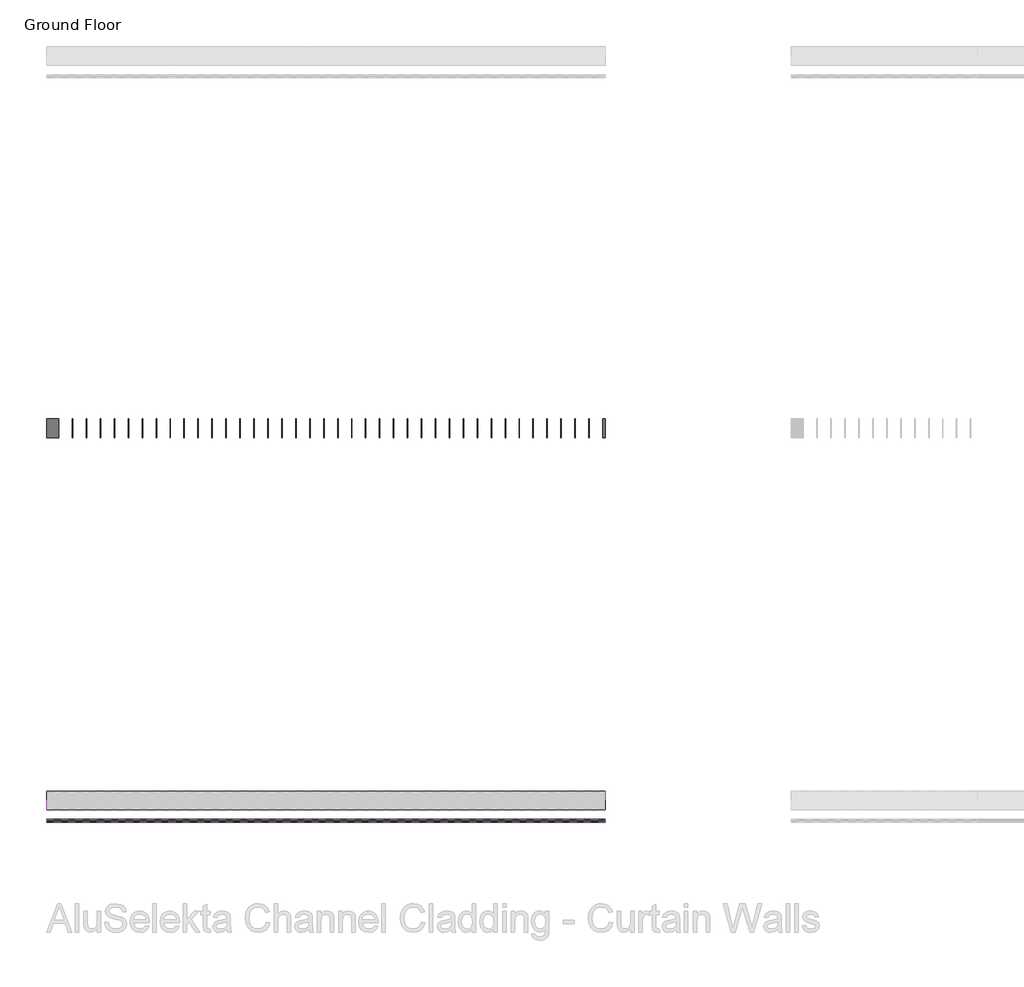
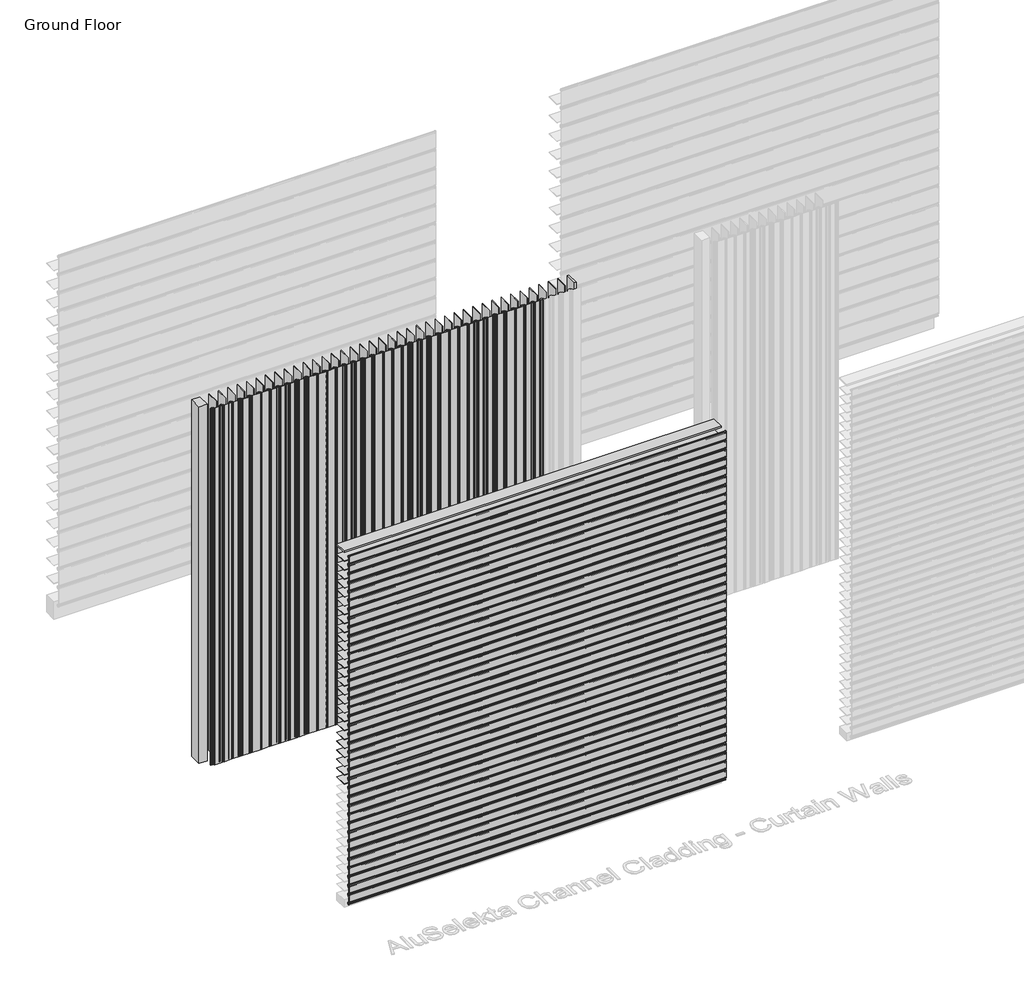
# One storey, part 11 of 350: 74 members, 67 plates.
"""IFC4 building model written with IfcOpenShell, lengths in millimetres."""

from ifc_helpers import new_model, si_unit, origin, place, context, project, spatial, transform, mapped, element, save
from components import rectangular_mullion_894c3da7, empty_system_panel_empty_02c6fd44, empty_system_panel_empty_a36746fc, empty_system_panel_empty_86793474, empty_system_panel_empty_27b459cb, empty_system_panel_empty_8dc9dcb4

model = new_model("IFC4")

# Units and contexts
model_context = context("Model", 3, world=origin())
ifc_project = project(units=[si_unit("LENGTHUNIT", "METRE", prefix="MILLI")], contexts=[model_context])

# Site, building, storey
site = spatial("IfcSite", under=ifc_project)
building = spatial("IfcBuilding", under=site)
storey = spatial("IfcBuildingStorey", under=building, Name="Ground Floor", Elevation=0.0)

# Members
placement = place(None, origin())
rectangular_mullion_shape = rectangular_mullion_894c3da7(model_context)
element("IfcMember", 1, ObjectType="Rectangular Mullion : Cladding_Aluminium_Modinex_AluSelekta_Channel_75_AfricanEbony", at=placement, inside=storey, context=model_context, shape_type="MappedRepresentation", body=[
    mapped(rectangular_mullion_shape, transform((31916.4361639, 12968.2978302, 75.0), x_axis=(0.0, 0.0, 1.0), y_axis=(0.0, -1.0, 0.0), z_axis=(1.0, 0.0, 0.0))),
])
element("IfcMember", 2, ObjectType="Rectangular Mullion : Cladding_Aluminium_Modinex_AluSelekta_Channel_75_AfricanEbony", at=placement, inside=storey, context=model_context, shape_type="MappedRepresentation", body=[
    mapped(rectangular_mullion_shape, transform((31916.4361639, 12968.2978302, 150.0), x_axis=(0.0, 0.0, 1.0), y_axis=(0.0, -1.0, 0.0), z_axis=(1.0, 0.0, 0.0))),
])
element("IfcMember", 3, ObjectType="Rectangular Mullion : Cladding_Aluminium_Modinex_AluSelekta_Channel_75_AfricanEbony", at=placement, inside=storey, context=model_context, shape_type="MappedRepresentation", body=[
    mapped(rectangular_mullion_shape, transform((31916.4361639, 12968.2978302, 225.0), x_axis=(0.0, 0.0, 1.0), y_axis=(0.0, -1.0, 0.0), z_axis=(1.0, 0.0, 0.0))),
])
element("IfcMember", 4, ObjectType="Rectangular Mullion : Cladding_Aluminium_Modinex_AluSelekta_Channel_75_AfricanEbony", at=placement, inside=storey, context=model_context, shape_type="MappedRepresentation", body=[
    mapped(rectangular_mullion_shape, transform((31916.4361639, 12968.2978302, 300.0), x_axis=(0.0, 0.0, 1.0), y_axis=(0.0, -1.0, 0.0), z_axis=(1.0, 0.0, 0.0))),
])
element("IfcMember", 5, ObjectType="Rectangular Mullion : Cladding_Aluminium_Modinex_AluSelekta_Channel_75_AfricanEbony", at=placement, inside=storey, context=model_context, shape_type="MappedRepresentation", body=[
    mapped(rectangular_mullion_shape, transform((31916.4361639, 12968.2978302, 375.0), x_axis=(0.0, 0.0, 1.0), y_axis=(0.0, -1.0, 0.0), z_axis=(1.0, 0.0, 0.0))),
])
element("IfcMember", 6, ObjectType="Rectangular Mullion : Cladding_Aluminium_Modinex_AluSelekta_Channel_75_AfricanEbony", at=placement, inside=storey, context=model_context, shape_type="MappedRepresentation", body=[
    mapped(rectangular_mullion_shape, transform((31916.4361639, 12968.2978302, 450.0), x_axis=(0.0, 0.0, 1.0), y_axis=(0.0, -1.0, 0.0), z_axis=(1.0, 0.0, 0.0))),
])
element("IfcMember", 7, ObjectType="Rectangular Mullion : Cladding_Aluminium_Modinex_AluSelekta_Channel_75_AfricanEbony", at=placement, inside=storey, context=model_context, shape_type="MappedRepresentation", body=[
    mapped(rectangular_mullion_shape, transform((31916.4361639, 12968.2978302, 525.0), x_axis=(0.0, 0.0, 1.0), y_axis=(0.0, -1.0, 0.0), z_axis=(1.0, 0.0, 0.0))),
])
element("IfcMember", 8, ObjectType="Rectangular Mullion : Cladding_Aluminium_Modinex_AluSelekta_Channel_75_AfricanEbony", at=placement, inside=storey, context=model_context, shape_type="MappedRepresentation", body=[
    mapped(rectangular_mullion_shape, transform((31916.4361639, 12968.2978302, 600.0), x_axis=(0.0, 0.0, 1.0), y_axis=(0.0, -1.0, 0.0), z_axis=(1.0, 0.0, 0.0))),
])
element("IfcMember", 9, ObjectType="Rectangular Mullion : Cladding_Aluminium_Modinex_AluSelekta_Channel_75_AfricanEbony", at=placement, inside=storey, context=model_context, shape_type="MappedRepresentation", body=[
    mapped(rectangular_mullion_shape, transform((31916.4361639, 12968.2978302, 675.0), x_axis=(0.0, 0.0, 1.0), y_axis=(0.0, -1.0, 0.0), z_axis=(1.0, 0.0, 0.0))),
])
element("IfcMember", 10, ObjectType="Rectangular Mullion : Cladding_Aluminium_Modinex_AluSelekta_Channel_75_AfricanEbony", at=placement, inside=storey, context=model_context, shape_type="MappedRepresentation", body=[
    mapped(rectangular_mullion_shape, transform((31916.4361639, 12968.2978302, 750.0), x_axis=(0.0, 0.0, 1.0), y_axis=(0.0, -1.0, 0.0), z_axis=(1.0, 0.0, 0.0))),
])
element("IfcMember", 11, ObjectType="Rectangular Mullion : Cladding_Aluminium_Modinex_AluSelekta_Channel_75_AfricanEbony", at=placement, inside=storey, context=model_context, shape_type="MappedRepresentation", body=[
    mapped(rectangular_mullion_shape, transform((31916.4361639, 12968.2978302, 825.0), x_axis=(0.0, 0.0, 1.0), y_axis=(0.0, -1.0, 0.0), z_axis=(1.0, 0.0, 0.0))),
])
element("IfcMember", 12, ObjectType="Rectangular Mullion : Cladding_Aluminium_Modinex_AluSelekta_Channel_75_AfricanEbony", at=placement, inside=storey, context=model_context, shape_type="MappedRepresentation", body=[
    mapped(rectangular_mullion_shape, transform((31916.4361639, 12968.2978302, 900.0), x_axis=(0.0, 0.0, 1.0), y_axis=(0.0, -1.0, 0.0), z_axis=(1.0, 0.0, 0.0))),
])
element("IfcMember", 13, ObjectType="Rectangular Mullion : Cladding_Aluminium_Modinex_AluSelekta_Channel_75_AfricanEbony", at=placement, inside=storey, context=model_context, shape_type="MappedRepresentation", body=[
    mapped(rectangular_mullion_shape, transform((31916.4361639, 12968.2978302, 975.0), x_axis=(0.0, 0.0, 1.0), y_axis=(0.0, -1.0, 0.0), z_axis=(1.0, 0.0, 0.0))),
])
element("IfcMember", 14, ObjectType="Rectangular Mullion : Cladding_Aluminium_Modinex_AluSelekta_Channel_75_AfricanEbony", at=placement, inside=storey, context=model_context, shape_type="MappedRepresentation", body=[
    mapped(rectangular_mullion_shape, transform((31916.4361639, 12968.2978302, 1050.0), x_axis=(0.0, 0.0, 1.0), y_axis=(0.0, -1.0, 0.0), z_axis=(1.0, 0.0, 0.0))),
])
element("IfcMember", 15, ObjectType="Rectangular Mullion : Cladding_Aluminium_Modinex_AluSelekta_Channel_75_AfricanEbony", at=placement, inside=storey, context=model_context, shape_type="MappedRepresentation", body=[
    mapped(rectangular_mullion_shape, transform((31916.4361639, 12968.2978302, 1125.0), x_axis=(0.0, 0.0, 1.0), y_axis=(0.0, -1.0, 0.0), z_axis=(1.0, 0.0, 0.0))),
])
element("IfcMember", 16, ObjectType="Rectangular Mullion : Cladding_Aluminium_Modinex_AluSelekta_Channel_75_AfricanEbony", at=placement, inside=storey, context=model_context, shape_type="MappedRepresentation", body=[
    mapped(rectangular_mullion_shape, transform((31916.4361639, 12968.2978302, 1200.0), x_axis=(0.0, 0.0, 1.0), y_axis=(0.0, -1.0, 0.0), z_axis=(1.0, 0.0, 0.0))),
])
element("IfcMember", 17, ObjectType="Rectangular Mullion : Cladding_Aluminium_Modinex_AluSelekta_Channel_75_AfricanEbony", at=placement, inside=storey, context=model_context, shape_type="MappedRepresentation", body=[
    mapped(rectangular_mullion_shape, transform((31916.4361639, 12968.2978302, 1275.0), x_axis=(0.0, 0.0, 1.0), y_axis=(0.0, -1.0, 0.0), z_axis=(1.0, 0.0, 0.0))),
])
element("IfcMember", 18, ObjectType="Rectangular Mullion : Cladding_Aluminium_Modinex_AluSelekta_Channel_75_AfricanEbony", at=placement, inside=storey, context=model_context, shape_type="MappedRepresentation", body=[
    mapped(rectangular_mullion_shape, transform((31916.4361639, 12968.2978302, 1350.0), x_axis=(0.0, 0.0, 1.0), y_axis=(0.0, -1.0, 0.0), z_axis=(1.0, 0.0, 0.0))),
])
element("IfcMember", 19, ObjectType="Rectangular Mullion : Cladding_Aluminium_Modinex_AluSelekta_Channel_75_AfricanEbony", at=placement, inside=storey, context=model_context, shape_type="MappedRepresentation", body=[
    mapped(rectangular_mullion_shape, transform((31916.4361639, 12968.2978302, 1425.0), x_axis=(0.0, 0.0, 1.0), y_axis=(0.0, -1.0, 0.0), z_axis=(1.0, 0.0, 0.0))),
])
element("IfcMember", 20, ObjectType="Rectangular Mullion : Cladding_Aluminium_Modinex_AluSelekta_Channel_75_AfricanEbony", at=placement, inside=storey, context=model_context, shape_type="MappedRepresentation", body=[
    mapped(rectangular_mullion_shape, transform((31916.4361639, 12968.2978302, 1500.0), x_axis=(0.0, 0.0, 1.0), y_axis=(0.0, -1.0, 0.0), z_axis=(1.0, 0.0, 0.0))),
])
element("IfcMember", 21, ObjectType="Rectangular Mullion : Cladding_Aluminium_Modinex_AluSelekta_Channel_75_AfricanEbony", at=placement, inside=storey, context=model_context, shape_type="MappedRepresentation", body=[
    mapped(rectangular_mullion_shape, transform((31916.4361639, 12968.2978302, 1575.0), x_axis=(0.0, 0.0, 1.0), y_axis=(0.0, -1.0, 0.0), z_axis=(1.0, 0.0, 0.0))),
])
element("IfcMember", 22, ObjectType="Rectangular Mullion : Cladding_Aluminium_Modinex_AluSelekta_Channel_75_AfricanEbony", at=placement, inside=storey, context=model_context, shape_type="MappedRepresentation", body=[
    mapped(rectangular_mullion_shape, transform((31916.4361639, 12968.2978302, 1650.0), x_axis=(0.0, 0.0, 1.0), y_axis=(0.0, -1.0, 0.0), z_axis=(1.0, 0.0, 0.0))),
])
element("IfcMember", 23, ObjectType="Rectangular Mullion : Cladding_Aluminium_Modinex_AluSelekta_Channel_75_AfricanEbony", at=placement, inside=storey, context=model_context, shape_type="MappedRepresentation", body=[
    mapped(rectangular_mullion_shape, transform((31916.4361639, 12968.2978302, 1725.0), x_axis=(0.0, 0.0, 1.0), y_axis=(0.0, -1.0, 0.0), z_axis=(1.0, 0.0, 0.0))),
])
element("IfcMember", 24, ObjectType="Rectangular Mullion : Cladding_Aluminium_Modinex_AluSelekta_Channel_75_AfricanEbony", at=placement, inside=storey, context=model_context, shape_type="MappedRepresentation", body=[
    mapped(rectangular_mullion_shape, transform((31916.4361639, 12968.2978302, 1800.0), x_axis=(0.0, 0.0, 1.0), y_axis=(0.0, -1.0, 0.0), z_axis=(1.0, 0.0, 0.0))),
])
element("IfcMember", 25, ObjectType="Rectangular Mullion : Cladding_Aluminium_Modinex_AluSelekta_Channel_75_AfricanEbony", at=placement, inside=storey, context=model_context, shape_type="MappedRepresentation", body=[
    mapped(rectangular_mullion_shape, transform((31916.4361639, 12968.2978302, 1875.0), x_axis=(0.0, 0.0, 1.0), y_axis=(0.0, -1.0, 0.0), z_axis=(1.0, 0.0, 0.0))),
])
element("IfcMember", 26, ObjectType="Rectangular Mullion : Cladding_Aluminium_Modinex_AluSelekta_Channel_75_AfricanEbony", at=placement, inside=storey, context=model_context, shape_type="MappedRepresentation", body=[
    mapped(rectangular_mullion_shape, transform((31916.4361639, 12968.2978302, 1950.0), x_axis=(0.0, 0.0, 1.0), y_axis=(0.0, -1.0, 0.0), z_axis=(1.0, 0.0, 0.0))),
])
element("IfcMember", 27, ObjectType="Rectangular Mullion : Cladding_Aluminium_Modinex_AluSelekta_Channel_75_AfricanEbony", at=placement, inside=storey, context=model_context, shape_type="MappedRepresentation", body=[
    mapped(rectangular_mullion_shape, transform((31916.4361639, 12968.2978302, 2025.0), x_axis=(0.0, 0.0, 1.0), y_axis=(0.0, -1.0, 0.0), z_axis=(1.0, 0.0, 0.0))),
])
element("IfcMember", 28, ObjectType="Rectangular Mullion : Cladding_Aluminium_Modinex_AluSelekta_Channel_75_AfricanEbony", at=placement, inside=storey, context=model_context, shape_type="MappedRepresentation", body=[
    mapped(rectangular_mullion_shape, transform((31916.4361639, 12968.2978302, 2100.0), x_axis=(0.0, 0.0, 1.0), y_axis=(0.0, -1.0, 0.0), z_axis=(1.0, 0.0, 0.0))),
])
element("IfcMember", 29, ObjectType="Rectangular Mullion : Cladding_Aluminium_Modinex_AluSelekta_Channel_75_AfricanEbony", at=placement, inside=storey, context=model_context, shape_type="MappedRepresentation", body=[
    mapped(rectangular_mullion_shape, transform((31916.4361639, 12968.2978302, 2175.0), x_axis=(0.0, 0.0, 1.0), y_axis=(0.0, -1.0, 0.0), z_axis=(1.0, 0.0, 0.0))),
])
element("IfcMember", 30, ObjectType="Rectangular Mullion : Cladding_Aluminium_Modinex_AluSelekta_Channel_75_AfricanEbony", at=placement, inside=storey, context=model_context, shape_type="MappedRepresentation", body=[
    mapped(rectangular_mullion_shape, transform((31916.4361639, 12968.2978302, 2250.0), x_axis=(0.0, 0.0, 1.0), y_axis=(0.0, -1.0, 0.0), z_axis=(1.0, 0.0, 0.0))),
])
element("IfcMember", 31, ObjectType="Rectangular Mullion : Cladding_Aluminium_Modinex_AluSelekta_Channel_75_AfricanEbony", at=placement, inside=storey, context=model_context, shape_type="MappedRepresentation", body=[
    mapped(rectangular_mullion_shape, transform((31916.4361639, 12968.2978302, 2325.0), x_axis=(0.0, 0.0, 1.0), y_axis=(0.0, -1.0, 0.0), z_axis=(1.0, 0.0, 0.0))),
])
element("IfcMember", 32, ObjectType="Rectangular Mullion : Cladding_Aluminium_Modinex_AluSelekta_Channel_75_AfricanEbony", at=placement, inside=storey, context=model_context, shape_type="MappedRepresentation", body=[
    mapped(rectangular_mullion_shape, transform((31916.4361639, 12968.2978302, 2400.0), x_axis=(0.0, 0.0, 1.0), y_axis=(0.0, -1.0, 0.0), z_axis=(1.0, 0.0, 0.0))),
])
element("IfcMember", 33, ObjectType="Rectangular Mullion : Cladding_Aluminium_Modinex_AluSelekta_Channel_75_AfricanEbony", at=placement, inside=storey, context=model_context, shape_type="MappedRepresentation", body=[
    mapped(rectangular_mullion_shape, transform((31916.4361639, 12968.2978302, 2475.0), x_axis=(0.0, 0.0, 1.0), y_axis=(0.0, -1.0, 0.0), z_axis=(1.0, 0.0, 0.0))),
])
element("IfcMember", 34, ObjectType="Rectangular Mullion : Cladding_Aluminium_Modinex_AluSelekta_Channel_75_AfricanEbony", at=placement, inside=storey, context=model_context, shape_type="MappedRepresentation", body=[
    mapped(rectangular_mullion_shape, transform((31916.4361639, 12968.2978302, 2550.0), x_axis=(0.0, 0.0, 1.0), y_axis=(0.0, -1.0, 0.0), z_axis=(1.0, 0.0, 0.0))),
])
element("IfcMember", 35, ObjectType="Rectangular Mullion : Cladding_Aluminium_Modinex_AluSelekta_Channel_75_AfricanEbony", at=placement, inside=storey, context=model_context, shape_type="MappedRepresentation", body=[
    mapped(rectangular_mullion_shape, transform((31916.4361639, 12968.2978302, 2625.0), x_axis=(0.0, 0.0, 1.0), y_axis=(0.0, -1.0, 0.0), z_axis=(1.0, 0.0, 0.0))),
])
element("IfcMember", 36, ObjectType="Rectangular Mullion : Cladding_Aluminium_Modinex_AluSelekta_Channel_75_AfricanEbony", at=placement, inside=storey, context=model_context, shape_type="MappedRepresentation", body=[
    mapped(rectangular_mullion_shape, transform((31916.4361639, 12968.2978302, 2700.0), x_axis=(0.0, 0.0, 1.0), y_axis=(0.0, -1.0, 0.0), z_axis=(1.0, 0.0, 0.0))),
])
element("IfcMember", 37, ObjectType="Rectangular Mullion : Cladding_Aluminium_Modinex_AluSelekta_Channel_75_AfricanEbony", at=placement, inside=storey, context=model_context, shape_type="MappedRepresentation", body=[
    mapped(rectangular_mullion_shape, transform((31916.4361639, 12968.2978302, 2775.0), x_axis=(0.0, 0.0, 1.0), y_axis=(0.0, -1.0, 0.0), z_axis=(1.0, 0.0, 0.0))),
])
element("IfcMember", 38, ObjectType="Rectangular Mullion : Cladding_Aluminium_Modinex_AluSelekta_Channel_75_AfricanEbony", at=placement, inside=storey, context=model_context, shape_type="MappedRepresentation", body=[
    mapped(rectangular_mullion_shape, transform((31916.4361639, 12968.2978302, 2850.0), x_axis=(0.0, 0.0, 1.0), y_axis=(0.0, -1.0, 0.0), z_axis=(1.0, 0.0, 0.0))),
])
element("IfcMember", 39, ObjectType="Rectangular Mullion : Cladding_Aluminium_Modinex_AluSelekta_Channel_75_AfricanEbony", at=placement, inside=storey, context=model_context, shape_type="MappedRepresentation", body=[
    mapped(rectangular_mullion_shape, transform((31916.4361639, 12968.2978302, 2925.0), x_axis=(0.0, 0.0, 1.0), y_axis=(0.0, -1.0, 0.0), z_axis=(1.0, 0.0, 0.0))),
])
element("IfcMember", 40, ObjectType="Rectangular Mullion : Cladding_Aluminium_Modinex_AluSelekta_Channel_75_AfricanEbony", at=placement, inside=storey, context=model_context, shape_type="MappedRepresentation", body=[
    mapped(rectangular_mullion_shape, transform((30566.4361642, 14968.2978302, 0.0), x_axis=(1.0, 0.0, 0.0), y_axis=(0.0, -1.0, 0.0), z_axis=(0.0, 0.0, -1.0))),
])
element("IfcMember", 41, ObjectType="Rectangular Mullion : Cladding_Aluminium_Modinex_AluSelekta_Channel_75_AfricanEbony", at=placement, inside=storey, context=model_context, shape_type="MappedRepresentation", body=[
    mapped(rectangular_mullion_shape, transform((30641.4361642, 14968.2978302, 0.0), x_axis=(1.0, 0.0, 0.0), y_axis=(0.0, -1.0, 0.0), z_axis=(0.0, 0.0, -1.0))),
])
element("IfcMember", 42, ObjectType="Rectangular Mullion : Cladding_Aluminium_Modinex_AluSelekta_Channel_75_AfricanEbony", at=placement, inside=storey, context=model_context, shape_type="MappedRepresentation", body=[
    mapped(rectangular_mullion_shape, transform((30716.4361642, 14968.2978302, 0.0), x_axis=(1.0, 0.0, 0.0), y_axis=(0.0, -1.0, 0.0), z_axis=(0.0, 0.0, -1.0))),
])
element("IfcMember", 43, ObjectType="Rectangular Mullion : Cladding_Aluminium_Modinex_AluSelekta_Channel_75_AfricanEbony", at=placement, inside=storey, context=model_context, shape_type="MappedRepresentation", body=[
    mapped(rectangular_mullion_shape, transform((30791.4361642, 14968.2978302, 0.0), x_axis=(1.0, 0.0, 0.0), y_axis=(0.0, -1.0, 0.0), z_axis=(0.0, 0.0, -1.0))),
])
element("IfcMember", 44, ObjectType="Rectangular Mullion : Cladding_Aluminium_Modinex_AluSelekta_Channel_75_AfricanEbony", at=placement, inside=storey, context=model_context, shape_type="MappedRepresentation", body=[
    mapped(rectangular_mullion_shape, transform((30866.4361642, 14968.2978302, 0.0), x_axis=(1.0, 0.0, 0.0), y_axis=(0.0, -1.0, 0.0), z_axis=(0.0, 0.0, -1.0))),
])
element("IfcMember", 45, ObjectType="Rectangular Mullion : Cladding_Aluminium_Modinex_AluSelekta_Channel_75_AfricanEbony", at=placement, inside=storey, context=model_context, shape_type="MappedRepresentation", body=[
    mapped(rectangular_mullion_shape, transform((30941.4361642, 14968.2978302, 0.0), x_axis=(1.0, 0.0, 0.0), y_axis=(0.0, -1.0, 0.0), z_axis=(0.0, 0.0, -1.0))),
])
element("IfcMember", 46, ObjectType="Rectangular Mullion : Cladding_Aluminium_Modinex_AluSelekta_Channel_75_AfricanEbony", at=placement, inside=storey, context=model_context, shape_type="MappedRepresentation", body=[
    mapped(rectangular_mullion_shape, transform((31016.4361642, 14968.2978302, 0.0), x_axis=(1.0, 0.0, 0.0), y_axis=(0.0, -1.0, 0.0), z_axis=(0.0, 0.0, -1.0))),
])
element("IfcMember", 47, ObjectType="Rectangular Mullion : Cladding_Aluminium_Modinex_AluSelekta_Channel_75_AfricanEbony", at=placement, inside=storey, context=model_context, shape_type="MappedRepresentation", body=[
    mapped(rectangular_mullion_shape, transform((31091.4361642, 14968.2978302, 0.0), x_axis=(1.0, 0.0, 0.0), y_axis=(0.0, -1.0, 0.0), z_axis=(0.0, 0.0, -1.0))),
])
element("IfcMember", 48, ObjectType="Rectangular Mullion : Cladding_Aluminium_Modinex_AluSelekta_Channel_75_AfricanEbony", at=placement, inside=storey, context=model_context, shape_type="MappedRepresentation", body=[
    mapped(rectangular_mullion_shape, transform((31166.4361642, 14968.2978302, 0.0), x_axis=(1.0, 0.0, 0.0), y_axis=(0.0, -1.0, 0.0), z_axis=(0.0, 0.0, -1.0))),
])
element("IfcMember", 49, ObjectType="Rectangular Mullion : Cladding_Aluminium_Modinex_AluSelekta_Channel_75_AfricanEbony", at=placement, inside=storey, context=model_context, shape_type="MappedRepresentation", body=[
    mapped(rectangular_mullion_shape, transform((31241.4361642, 14968.2978302, 0.0), x_axis=(1.0, 0.0, 0.0), y_axis=(0.0, -1.0, 0.0), z_axis=(0.0, 0.0, -1.0))),
])
element("IfcMember", 50, ObjectType="Rectangular Mullion : Cladding_Aluminium_Modinex_AluSelekta_Channel_75_AfricanEbony", at=placement, inside=storey, context=model_context, shape_type="MappedRepresentation", body=[
    mapped(rectangular_mullion_shape, transform((31316.4361642, 14968.2978302, 0.0), x_axis=(1.0, 0.0, 0.0), y_axis=(0.0, -1.0, 0.0), z_axis=(0.0, 0.0, -1.0))),
])
element("IfcMember", 51, ObjectType="Rectangular Mullion : Cladding_Aluminium_Modinex_AluSelekta_Channel_75_AfricanEbony", at=placement, inside=storey, context=model_context, shape_type="MappedRepresentation", body=[
    mapped(rectangular_mullion_shape, transform((31391.4361642, 14968.2978302, 0.0), x_axis=(1.0, 0.0, 0.0), y_axis=(0.0, -1.0, 0.0), z_axis=(0.0, 0.0, -1.0))),
])
element("IfcMember", 52, ObjectType="Rectangular Mullion : Cladding_Aluminium_Modinex_AluSelekta_Channel_75_AfricanEbony", at=placement, inside=storey, context=model_context, shape_type="MappedRepresentation", body=[
    mapped(rectangular_mullion_shape, transform((31466.4361642, 14968.2978302, 0.0), x_axis=(1.0, 0.0, 0.0), y_axis=(0.0, -1.0, 0.0), z_axis=(0.0, 0.0, -1.0))),
])
element("IfcMember", 53, ObjectType="Rectangular Mullion : Cladding_Aluminium_Modinex_AluSelekta_Channel_75_AfricanEbony", at=placement, inside=storey, context=model_context, shape_type="MappedRepresentation", body=[
    mapped(rectangular_mullion_shape, transform((31541.4361642, 14968.2978302, 0.0), x_axis=(1.0, 0.0, 0.0), y_axis=(0.0, -1.0, 0.0), z_axis=(0.0, 0.0, -1.0))),
])
element("IfcMember", 54, ObjectType="Rectangular Mullion : Cladding_Aluminium_Modinex_AluSelekta_Channel_75_AfricanEbony", at=placement, inside=storey, context=model_context, shape_type="MappedRepresentation", body=[
    mapped(rectangular_mullion_shape, transform((30491.4361642, 14968.2978302, 0.0), x_axis=(1.0, 0.0, 0.0), y_axis=(0.0, -1.0, 0.0), z_axis=(0.0, 0.0, -1.0))),
])
element("IfcMember", 55, ObjectType="Rectangular Mullion : Cladding_Aluminium_Modinex_AluSelekta_Channel_75_AfricanEbony", at=placement, inside=storey, context=model_context, shape_type="MappedRepresentation", body=[
    mapped(rectangular_mullion_shape, transform((30416.4361642, 14968.2978302, 0.0), x_axis=(1.0, 0.0, 0.0), y_axis=(0.0, -1.0, 0.0), z_axis=(0.0, 0.0, -1.0))),
])
element("IfcMember", 56, ObjectType="Rectangular Mullion : Cladding_Aluminium_Modinex_AluSelekta_Channel_75_AfricanEbony", at=placement, inside=storey, context=model_context, shape_type="MappedRepresentation", body=[
    mapped(rectangular_mullion_shape, transform((30341.4361642, 14968.2978302, 0.0), x_axis=(1.0, 0.0, 0.0), y_axis=(0.0, -1.0, 0.0), z_axis=(0.0, 0.0, -1.0))),
])
element("IfcMember", 57, ObjectType="Rectangular Mullion : Cladding_Aluminium_Modinex_AluSelekta_Channel_75_AfricanEbony", at=placement, inside=storey, context=model_context, shape_type="MappedRepresentation", body=[
    mapped(rectangular_mullion_shape, transform((30266.4361642, 14968.2978302, 0.0), x_axis=(1.0, 0.0, 0.0), y_axis=(0.0, -1.0, 0.0), z_axis=(0.0, 0.0, -1.0))),
])
element("IfcMember", 58, ObjectType="Rectangular Mullion : Cladding_Aluminium_Modinex_AluSelekta_Channel_75_AfricanEbony", at=placement, inside=storey, context=model_context, shape_type="MappedRepresentation", body=[
    mapped(rectangular_mullion_shape, transform((30191.4361642, 14968.2978302, 0.0), x_axis=(1.0, 0.0, 0.0), y_axis=(0.0, -1.0, 0.0), z_axis=(0.0, 0.0, -1.0))),
])
element("IfcMember", 59, ObjectType="Rectangular Mullion : Cladding_Aluminium_Modinex_AluSelekta_Channel_75_AfricanEbony", at=placement, inside=storey, context=model_context, shape_type="MappedRepresentation", body=[
    mapped(rectangular_mullion_shape, transform((30116.4361642, 14968.2978302, 0.0), x_axis=(1.0, 0.0, 0.0), y_axis=(0.0, -1.0, 0.0), z_axis=(0.0, 0.0, -1.0))),
])
element("IfcMember", 60, ObjectType="Rectangular Mullion : Cladding_Aluminium_Modinex_AluSelekta_Channel_75_AfricanEbony", at=placement, inside=storey, context=model_context, shape_type="MappedRepresentation", body=[
    mapped(rectangular_mullion_shape, transform((30041.4361642, 14968.2978302, 0.0), x_axis=(1.0, 0.0, 0.0), y_axis=(0.0, -1.0, 0.0), z_axis=(0.0, 0.0, -1.0))),
])
element("IfcMember", 61, ObjectType="Rectangular Mullion : Cladding_Aluminium_Modinex_AluSelekta_Channel_75_AfricanEbony", at=placement, inside=storey, context=model_context, shape_type="MappedRepresentation", body=[
    mapped(rectangular_mullion_shape, transform((29966.4361642, 14968.2978302, 0.0), x_axis=(1.0, 0.0, 0.0), y_axis=(0.0, -1.0, 0.0), z_axis=(0.0, 0.0, -1.0))),
])
element("IfcMember", 62, ObjectType="Rectangular Mullion : Cladding_Aluminium_Modinex_AluSelekta_Channel_75_AfricanEbony", at=placement, inside=storey, context=model_context, shape_type="MappedRepresentation", body=[
    mapped(rectangular_mullion_shape, transform((29891.4361642, 14968.2978302, 0.0), x_axis=(1.0, 0.0, 0.0), y_axis=(0.0, -1.0, 0.0), z_axis=(0.0, 0.0, -1.0))),
])
element("IfcMember", 63, ObjectType="Rectangular Mullion : Cladding_Aluminium_Modinex_AluSelekta_Channel_75_AfricanEbony", at=placement, inside=storey, context=model_context, shape_type="MappedRepresentation", body=[
    mapped(rectangular_mullion_shape, transform((29816.4361642, 14968.2978302, 0.0), x_axis=(1.0, 0.0, 0.0), y_axis=(0.0, -1.0, 0.0), z_axis=(0.0, 0.0, -1.0))),
])
element("IfcMember", 64, ObjectType="Rectangular Mullion : Cladding_Aluminium_Modinex_AluSelekta_Channel_75_AfricanEbony", at=placement, inside=storey, context=model_context, shape_type="MappedRepresentation", body=[
    mapped(rectangular_mullion_shape, transform((29741.4361642, 14968.2978302, 0.0), x_axis=(1.0, 0.0, 0.0), y_axis=(0.0, -1.0, 0.0), z_axis=(0.0, 0.0, -1.0))),
])
element("IfcMember", 65, ObjectType="Rectangular Mullion : Cladding_Aluminium_Modinex_AluSelekta_Channel_75_AfricanEbony", at=placement, inside=storey, context=model_context, shape_type="MappedRepresentation", body=[
    mapped(rectangular_mullion_shape, transform((29666.4361642, 14968.2978302, 0.0), x_axis=(1.0, 0.0, 0.0), y_axis=(0.0, -1.0, 0.0), z_axis=(0.0, 0.0, -1.0))),
])
element("IfcMember", 66, ObjectType="Rectangular Mullion : Cladding_Aluminium_Modinex_AluSelekta_Channel_75_AfricanEbony", at=placement, inside=storey, context=model_context, shape_type="MappedRepresentation", body=[
    mapped(rectangular_mullion_shape, transform((29591.4361642, 14968.2978302, 0.0), x_axis=(1.0, 0.0, 0.0), y_axis=(0.0, -1.0, 0.0), z_axis=(0.0, 0.0, -1.0))),
])
element("IfcMember", 67, ObjectType="Rectangular Mullion : Cladding_Aluminium_Modinex_AluSelekta_Channel_75_AfricanEbony", at=placement, inside=storey, context=model_context, shape_type="MappedRepresentation", body=[
    mapped(rectangular_mullion_shape, transform((29516.4361642, 14968.2978302, 0.0), x_axis=(1.0, 0.0, 0.0), y_axis=(0.0, -1.0, 0.0), z_axis=(0.0, 0.0, -1.0))),
])
element("IfcMember", 68, ObjectType="Rectangular Mullion : Cladding_Aluminium_Modinex_AluSelekta_Channel_75_AfricanEbony", at=placement, inside=storey, context=model_context, shape_type="MappedRepresentation", body=[
    mapped(rectangular_mullion_shape, transform((29441.4361642, 14968.2978302, 0.0), x_axis=(1.0, 0.0, 0.0), y_axis=(0.0, -1.0, 0.0), z_axis=(0.0, 0.0, -1.0))),
])
element("IfcMember", 69, ObjectType="Rectangular Mullion : Cladding_Aluminium_Modinex_AluSelekta_Channel_75_AfricanEbony", at=placement, inside=storey, context=model_context, shape_type="MappedRepresentation", body=[
    mapped(rectangular_mullion_shape, transform((29366.4361642, 14968.2978302, 0.0), x_axis=(1.0, 0.0, 0.0), y_axis=(0.0, -1.0, 0.0), z_axis=(0.0, 0.0, -1.0))),
])
element("IfcMember", 70, ObjectType="Rectangular Mullion : Cladding_Aluminium_Modinex_AluSelekta_Channel_75_AfricanEbony", at=placement, inside=storey, context=model_context, shape_type="MappedRepresentation", body=[
    mapped(rectangular_mullion_shape, transform((29291.4361642, 14968.2978302, 0.0), x_axis=(1.0, 0.0, 0.0), y_axis=(0.0, -1.0, 0.0), z_axis=(0.0, 0.0, -1.0))),
])
element("IfcMember", 71, ObjectType="Rectangular Mullion : Cladding_Aluminium_Modinex_AluSelekta_Channel_75_AfricanEbony", at=placement, inside=storey, context=model_context, shape_type="MappedRepresentation", body=[
    mapped(rectangular_mullion_shape, transform((29216.4361642, 14968.2978302, 0.0), x_axis=(1.0, 0.0, 0.0), y_axis=(0.0, -1.0, 0.0), z_axis=(0.0, 0.0, -1.0))),
])
element("IfcMember", 72, ObjectType="Rectangular Mullion : Cladding_Aluminium_Modinex_AluSelekta_Channel_75_AfricanEbony", at=placement, inside=storey, context=model_context, shape_type="MappedRepresentation", body=[
    mapped(rectangular_mullion_shape, transform((29141.4361642, 14968.2978302, 0.0), x_axis=(1.0, 0.0, 0.0), y_axis=(0.0, -1.0, 0.0), z_axis=(0.0, 0.0, -1.0))),
])
element("IfcMember", 73, ObjectType="Rectangular Mullion : Cladding_Aluminium_Modinex_AluSelekta_Channel_75_AfricanEbony", at=placement, inside=storey, context=model_context, shape_type="MappedRepresentation", body=[
    mapped(rectangular_mullion_shape, transform((29066.4361642, 14968.2978302, 0.0), x_axis=(1.0, 0.0, 0.0), y_axis=(0.0, -1.0, 0.0), z_axis=(0.0, 0.0, -1.0))),
])
element("IfcMember", 74, ObjectType="Rectangular Mullion : Cladding_Aluminium_Modinex_AluSelekta_Channel_75_AfricanEbony", at=placement, inside=storey, context=model_context, shape_type="MappedRepresentation", body=[
    mapped(rectangular_mullion_shape, transform((28991.4361642, 14968.2978302, 0.0), x_axis=(1.0, 0.0, 0.0), y_axis=(0.0, -1.0, 0.0), z_axis=(0.0, 0.0, -1.0))),
])

# Plates
empty_system_panel_empty_shape = empty_system_panel_empty_02c6fd44(model_context)
element("IfcPlate", 75, ObjectType="Empty System Panel : Empty", at=placement, inside=storey, context=model_context, shape_type="MappedRepresentation", body=[
    mapped(empty_system_panel_empty_shape, transform((30416.4361639, 12968.2978302, 1037.2580963), x_axis=(1.0, 0.0, 0.0), y_axis=(0.0, 1.0, 0.0), z_axis=(0.0, 0.0, 1.0))),
])
element("IfcPlate", 76, ObjectType="Empty System Panel : Empty", at=placement, inside=storey, context=model_context, shape_type="MappedRepresentation", body=[
    mapped(empty_system_panel_empty_shape, transform((30416.4361639, 12968.2978302, 1112.2580963), x_axis=(1.0, 0.0, 0.0), y_axis=(0.0, 1.0, 0.0), z_axis=(0.0, 0.0, 1.0))),
])
element("IfcPlate", 77, ObjectType="Empty System Panel : Empty", at=placement, inside=storey, context=model_context, shape_type="MappedRepresentation", body=[
    mapped(empty_system_panel_empty_shape, transform((30416.4361639, 12968.2978302, 1187.2580963), x_axis=(1.0, 0.0, 0.0), y_axis=(0.0, 1.0, 0.0), z_axis=(0.0, 0.0, 1.0))),
])
element("IfcPlate", 78, ObjectType="Empty System Panel : Empty", at=placement, inside=storey, context=model_context, shape_type="MappedRepresentation", body=[
    mapped(empty_system_panel_empty_shape, transform((30416.4361639, 12968.2978302, 1262.2580963), x_axis=(1.0, 0.0, 0.0), y_axis=(0.0, 1.0, 0.0), z_axis=(0.0, 0.0, 1.0))),
])
element("IfcPlate", 79, ObjectType="Empty System Panel : Empty", at=placement, inside=storey, context=model_context, shape_type="MappedRepresentation", body=[
    mapped(empty_system_panel_empty_shape, transform((30416.4361639, 12968.2978302, 1337.2580963), x_axis=(1.0, 0.0, 0.0), y_axis=(0.0, 1.0, 0.0), z_axis=(0.0, 0.0, 1.0))),
])
element("IfcPlate", 80, ObjectType="Empty System Panel : Empty", at=placement, inside=storey, context=model_context, shape_type="MappedRepresentation", body=[
    mapped(empty_system_panel_empty_shape, transform((30416.4361639, 12968.2978302, 1412.2580963), x_axis=(1.0, 0.0, 0.0), y_axis=(0.0, 1.0, 0.0), z_axis=(0.0, 0.0, 1.0))),
])
element("IfcPlate", 81, ObjectType="Empty System Panel : Empty", at=placement, inside=storey, context=model_context, shape_type="MappedRepresentation", body=[
    mapped(empty_system_panel_empty_shape, transform((30416.4361639, 12968.2978302, 1487.2580963), x_axis=(1.0, 0.0, 0.0), y_axis=(0.0, 1.0, 0.0), z_axis=(0.0, 0.0, 1.0))),
])
element("IfcPlate", 82, ObjectType="Empty System Panel : Empty", at=placement, inside=storey, context=model_context, shape_type="MappedRepresentation", body=[
    mapped(empty_system_panel_empty_shape, transform((30416.4361639, 12968.2978302, 1562.2580963), x_axis=(1.0, 0.0, 0.0), y_axis=(0.0, 1.0, 0.0), z_axis=(0.0, 0.0, 1.0))),
])
element("IfcPlate", 83, ObjectType="Empty System Panel : Empty", at=placement, inside=storey, context=model_context, shape_type="MappedRepresentation", body=[
    mapped(empty_system_panel_empty_shape, transform((30416.4361639, 12968.2978302, 1637.2580963), x_axis=(1.0, 0.0, 0.0), y_axis=(0.0, 1.0, 0.0), z_axis=(0.0, 0.0, 1.0))),
])
element("IfcPlate", 84, ObjectType="Empty System Panel : Empty", at=placement, inside=storey, context=model_context, shape_type="MappedRepresentation", body=[
    mapped(empty_system_panel_empty_shape, transform((30416.4361639, 12968.2978302, 1712.2580963), x_axis=(1.0, 0.0, 0.0), y_axis=(0.0, 1.0, 0.0), z_axis=(0.0, 0.0, 1.0))),
])
element("IfcPlate", 85, ObjectType="Empty System Panel : Empty", at=placement, inside=storey, context=model_context, shape_type="MappedRepresentation", body=[
    mapped(empty_system_panel_empty_shape, transform((30416.4361639, 12968.2978302, 1787.2580963), x_axis=(1.0, 0.0, 0.0), y_axis=(0.0, 1.0, 0.0), z_axis=(0.0, 0.0, 1.0))),
])
element("IfcPlate", 86, ObjectType="Empty System Panel : Empty", at=placement, inside=storey, context=model_context, shape_type="MappedRepresentation", body=[
    mapped(empty_system_panel_empty_shape, transform((30416.4361639, 12968.2978302, 1862.2580963), x_axis=(1.0, 0.0, 0.0), y_axis=(0.0, 1.0, 0.0), z_axis=(0.0, 0.0, 1.0))),
])
element("IfcPlate", 87, ObjectType="Empty System Panel : Empty", at=placement, inside=storey, context=model_context, shape_type="MappedRepresentation", body=[
    mapped(empty_system_panel_empty_shape, transform((30416.4361639, 12968.2978302, 1937.2580963), x_axis=(1.0, 0.0, 0.0), y_axis=(0.0, 1.0, 0.0), z_axis=(0.0, 0.0, 1.0))),
])
element("IfcPlate", 88, ObjectType="Empty System Panel : Empty", at=placement, inside=storey, context=model_context, shape_type="MappedRepresentation", body=[
    mapped(empty_system_panel_empty_shape, transform((30416.4361639, 12968.2978302, 2012.2580963), x_axis=(1.0, 0.0, 0.0), y_axis=(0.0, 1.0, 0.0), z_axis=(0.0, 0.0, 1.0))),
])
element("IfcPlate", 89, ObjectType="Empty System Panel : Empty", at=placement, inside=storey, context=model_context, shape_type="MappedRepresentation", body=[
    mapped(empty_system_panel_empty_shape, transform((30416.4361639, 12968.2978302, 2087.2580963), x_axis=(1.0, 0.0, 0.0), y_axis=(0.0, 1.0, 0.0), z_axis=(0.0, 0.0, 1.0))),
])
element("IfcPlate", 90, ObjectType="Empty System Panel : Empty", at=placement, inside=storey, context=model_context, shape_type="MappedRepresentation", body=[
    mapped(empty_system_panel_empty_shape, transform((30416.4361639, 12968.2978302, 2162.2580963), x_axis=(1.0, 0.0, 0.0), y_axis=(0.0, 1.0, 0.0), z_axis=(0.0, 0.0, 1.0))),
])
element("IfcPlate", 91, ObjectType="Empty System Panel : Empty", at=placement, inside=storey, context=model_context, shape_type="MappedRepresentation", body=[
    mapped(empty_system_panel_empty_shape, transform((30416.4361639, 12968.2978302, 2237.2580963), x_axis=(1.0, 0.0, 0.0), y_axis=(0.0, 1.0, 0.0), z_axis=(0.0, 0.0, 1.0))),
])
element("IfcPlate", 92, ObjectType="Empty System Panel : Empty", at=placement, inside=storey, context=model_context, shape_type="MappedRepresentation", body=[
    mapped(empty_system_panel_empty_shape, transform((30416.4361639, 12968.2978302, 2312.2580963), x_axis=(1.0, 0.0, 0.0), y_axis=(0.0, 1.0, 0.0), z_axis=(0.0, 0.0, 1.0))),
])
element("IfcPlate", 93, ObjectType="Empty System Panel : Empty", at=placement, inside=storey, context=model_context, shape_type="MappedRepresentation", body=[
    mapped(empty_system_panel_empty_shape, transform((30416.4361639, 12968.2978302, 2387.2580963), x_axis=(1.0, 0.0, 0.0), y_axis=(0.0, 1.0, 0.0), z_axis=(0.0, 0.0, 1.0))),
])
element("IfcPlate", 94, ObjectType="Empty System Panel : Empty", at=placement, inside=storey, context=model_context, shape_type="MappedRepresentation", body=[
    mapped(empty_system_panel_empty_shape, transform((30416.4361639, 12968.2978302, 2462.2580963), x_axis=(1.0, 0.0, 0.0), y_axis=(0.0, 1.0, 0.0), z_axis=(0.0, 0.0, 1.0))),
])
element("IfcPlate", 95, ObjectType="Empty System Panel : Empty", at=placement, inside=storey, context=model_context, shape_type="MappedRepresentation", body=[
    mapped(empty_system_panel_empty_shape, transform((30416.4361639, 12968.2978302, 2537.2580963), x_axis=(1.0, 0.0, 0.0), y_axis=(0.0, 1.0, 0.0), z_axis=(0.0, 0.0, 1.0))),
])
element("IfcPlate", 96, ObjectType="Empty System Panel : Empty", at=placement, inside=storey, context=model_context, shape_type="MappedRepresentation", body=[
    mapped(empty_system_panel_empty_shape, transform((30416.4361639, 12968.2978302, 2612.2580963), x_axis=(1.0, 0.0, 0.0), y_axis=(0.0, 1.0, 0.0), z_axis=(0.0, 0.0, 1.0))),
])
element("IfcPlate", 97, ObjectType="Empty System Panel : Empty", at=placement, inside=storey, context=model_context, shape_type="MappedRepresentation", body=[
    mapped(empty_system_panel_empty_shape, transform((30416.4361639, 12968.2978302, 2687.2580963), x_axis=(1.0, 0.0, 0.0), y_axis=(0.0, 1.0, 0.0), z_axis=(0.0, 0.0, 1.0))),
])
element("IfcPlate", 98, ObjectType="Empty System Panel : Empty", at=placement, inside=storey, context=model_context, shape_type="MappedRepresentation", body=[
    mapped(empty_system_panel_empty_shape, transform((30416.4361639, 12968.2978302, 2762.2580963), x_axis=(1.0, 0.0, 0.0), y_axis=(0.0, 1.0, 0.0), z_axis=(0.0, 0.0, 1.0))),
])
element("IfcPlate", 99, ObjectType="Empty System Panel : Empty", at=placement, inside=storey, context=model_context, shape_type="MappedRepresentation", body=[
    mapped(empty_system_panel_empty_shape, transform((30416.4361639, 12968.2978302, 2837.2580963), x_axis=(1.0, 0.0, 0.0), y_axis=(0.0, 1.0, 0.0), z_axis=(0.0, 0.0, 1.0))),
])
element("IfcPlate", 100, ObjectType="Empty System Panel : Empty", at=placement, inside=storey, context=model_context, shape_type="MappedRepresentation", body=[
    mapped(empty_system_panel_empty_shape, transform((30416.4361639, 12968.2978302, 2912.2580963), x_axis=(1.0, 0.0, 0.0), y_axis=(0.0, 1.0, 0.0), z_axis=(0.0, 0.0, 1.0))),
])
empty_system_panel_empty_2_shape = empty_system_panel_empty_a36746fc(model_context)
element("IfcPlate", 101, ObjectType="Empty System Panel : Empty", at=placement, inside=storey, context=model_context, shape_type="MappedRepresentation", body=[
    mapped(empty_system_panel_empty_2_shape, transform((30416.4361639, 12968.2978302, 2987.2580963), x_axis=(1.0, 0.0, 0.0), y_axis=(0.0, 1.0, 0.0), z_axis=(0.0, 0.0, 1.0))),
])
empty_system_panel_empty_3_shape = empty_system_panel_empty_86793474(model_context)
element("IfcPlate", 102, ObjectType="Empty System Panel : Empty", at=placement, inside=storey, context=model_context, shape_type="MappedRepresentation", body=[
    mapped(empty_system_panel_empty_3_shape, transform((28948.8238843, 14968.2978302, 0.0), x_axis=(1.0, 0.0, 0.0), y_axis=(0.0, 1.0, 0.0), z_axis=(0.0, 0.0, 1.0))),
])
empty_system_panel_empty_4_shape = empty_system_panel_empty_27b459cb(model_context)
element("IfcPlate", 103, ObjectType="Empty System Panel : Empty", at=placement, inside=storey, context=model_context, shape_type="MappedRepresentation", body=[
    mapped(empty_system_panel_empty_4_shape, transform((30629.9529326, 14968.2978302, 0.0), x_axis=(1.0, 0.0, 0.0), y_axis=(0.0, 1.0, 0.0), z_axis=(0.0, 0.0, 1.0))),
])
element("IfcPlate", 104, ObjectType="Empty System Panel : Empty", at=placement, inside=storey, context=model_context, shape_type="MappedRepresentation", body=[
    mapped(empty_system_panel_empty_4_shape, transform((30704.9529326, 14968.2978302, 0.0), x_axis=(1.0, 0.0, 0.0), y_axis=(0.0, 1.0, 0.0), z_axis=(0.0, 0.0, 1.0))),
])
element("IfcPlate", 105, ObjectType="Empty System Panel : Empty", at=placement, inside=storey, context=model_context, shape_type="MappedRepresentation", body=[
    mapped(empty_system_panel_empty_4_shape, transform((30779.9529326, 14968.2978302, 0.0), x_axis=(1.0, 0.0, 0.0), y_axis=(0.0, 1.0, 0.0), z_axis=(0.0, 0.0, 1.0))),
])
element("IfcPlate", 106, ObjectType="Empty System Panel : Empty", at=placement, inside=storey, context=model_context, shape_type="MappedRepresentation", body=[
    mapped(empty_system_panel_empty_4_shape, transform((30854.9529326, 14968.2978302, 0.0), x_axis=(1.0, 0.0, 0.0), y_axis=(0.0, 1.0, 0.0), z_axis=(0.0, 0.0, 1.0))),
])
element("IfcPlate", 107, ObjectType="Empty System Panel : Empty", at=placement, inside=storey, context=model_context, shape_type="MappedRepresentation", body=[
    mapped(empty_system_panel_empty_4_shape, transform((30929.9529326, 14968.2978302, 0.0), x_axis=(1.0, 0.0, 0.0), y_axis=(0.0, 1.0, 0.0), z_axis=(0.0, 0.0, 1.0))),
])
element("IfcPlate", 108, ObjectType="Empty System Panel : Empty", at=placement, inside=storey, context=model_context, shape_type="MappedRepresentation", body=[
    mapped(empty_system_panel_empty_4_shape, transform((31004.9529326, 14968.2978302, 0.0), x_axis=(1.0, 0.0, 0.0), y_axis=(0.0, 1.0, 0.0), z_axis=(0.0, 0.0, 1.0))),
])
element("IfcPlate", 109, ObjectType="Empty System Panel : Empty", at=placement, inside=storey, context=model_context, shape_type="MappedRepresentation", body=[
    mapped(empty_system_panel_empty_4_shape, transform((31079.9529326, 14968.2978302, 0.0), x_axis=(1.0, 0.0, 0.0), y_axis=(0.0, 1.0, 0.0), z_axis=(0.0, 0.0, 1.0))),
])
element("IfcPlate", 110, ObjectType="Empty System Panel : Empty", at=placement, inside=storey, context=model_context, shape_type="MappedRepresentation", body=[
    mapped(empty_system_panel_empty_4_shape, transform((31154.9529326, 14968.2978302, 0.0), x_axis=(1.0, 0.0, 0.0), y_axis=(0.0, 1.0, 0.0), z_axis=(0.0, 0.0, 1.0))),
])
element("IfcPlate", 111, ObjectType="Empty System Panel : Empty", at=placement, inside=storey, context=model_context, shape_type="MappedRepresentation", body=[
    mapped(empty_system_panel_empty_4_shape, transform((31229.9529326, 14968.2978302, 0.0), x_axis=(1.0, 0.0, 0.0), y_axis=(0.0, 1.0, 0.0), z_axis=(0.0, 0.0, 1.0))),
])
element("IfcPlate", 112, ObjectType="Empty System Panel : Empty", at=placement, inside=storey, context=model_context, shape_type="MappedRepresentation", body=[
    mapped(empty_system_panel_empty_4_shape, transform((31304.9529326, 14968.2978302, 0.0), x_axis=(1.0, 0.0, 0.0), y_axis=(0.0, 1.0, 0.0), z_axis=(0.0, 0.0, 1.0))),
])
element("IfcPlate", 113, ObjectType="Empty System Panel : Empty", at=placement, inside=storey, context=model_context, shape_type="MappedRepresentation", body=[
    mapped(empty_system_panel_empty_4_shape, transform((31379.9529326, 14968.2978302, 0.0), x_axis=(1.0, 0.0, 0.0), y_axis=(0.0, 1.0, 0.0), z_axis=(0.0, 0.0, 1.0))),
])
element("IfcPlate", 114, ObjectType="Empty System Panel : Empty", at=placement, inside=storey, context=model_context, shape_type="MappedRepresentation", body=[
    mapped(empty_system_panel_empty_4_shape, transform((31454.9529326, 14968.2978302, 0.0), x_axis=(1.0, 0.0, 0.0), y_axis=(0.0, 1.0, 0.0), z_axis=(0.0, 0.0, 1.0))),
])
element("IfcPlate", 115, ObjectType="Empty System Panel : Empty", at=placement, inside=storey, context=model_context, shape_type="MappedRepresentation", body=[
    mapped(empty_system_panel_empty_4_shape, transform((31529.9529326, 14968.2978302, 0.0), x_axis=(1.0, 0.0, 0.0), y_axis=(0.0, 1.0, 0.0), z_axis=(0.0, 0.0, 1.0))),
])
element("IfcPlate", 116, ObjectType="Empty System Panel : Empty", at=placement, inside=storey, context=model_context, shape_type="MappedRepresentation", body=[
    mapped(empty_system_panel_empty_4_shape, transform((31604.9529326, 14968.2978302, 0.0), x_axis=(1.0, 0.0, 0.0), y_axis=(0.0, 1.0, 0.0), z_axis=(0.0, 0.0, 1.0))),
])
element("IfcPlate", 117, ObjectType="Empty System Panel : Empty", at=placement, inside=storey, context=model_context, shape_type="MappedRepresentation", body=[
    mapped(empty_system_panel_empty_4_shape, transform((31679.9529326, 14968.2978302, 0.0), x_axis=(1.0, 0.0, 0.0), y_axis=(0.0, 1.0, 0.0), z_axis=(0.0, 0.0, 1.0))),
])
element("IfcPlate", 118, ObjectType="Empty System Panel : Empty", at=placement, inside=storey, context=model_context, shape_type="MappedRepresentation", body=[
    mapped(empty_system_panel_empty_4_shape, transform((31754.9529326, 14968.2978302, 0.0), x_axis=(1.0, 0.0, 0.0), y_axis=(0.0, 1.0, 0.0), z_axis=(0.0, 0.0, 1.0))),
])
element("IfcPlate", 119, ObjectType="Empty System Panel : Empty", at=placement, inside=storey, context=model_context, shape_type="MappedRepresentation", body=[
    mapped(empty_system_panel_empty_4_shape, transform((31829.9529326, 14968.2978302, 0.0), x_axis=(1.0, 0.0, 0.0), y_axis=(0.0, 1.0, 0.0), z_axis=(0.0, 0.0, 1.0))),
])
element("IfcPlate", 120, ObjectType="Empty System Panel : Empty", at=placement, inside=storey, context=model_context, shape_type="MappedRepresentation", body=[
    mapped(empty_system_panel_empty_4_shape, transform((30554.9529326, 14968.2978302, 0.0), x_axis=(1.0, 0.0, 0.0), y_axis=(0.0, 1.0, 0.0), z_axis=(0.0, 0.0, 1.0))),
])
element("IfcPlate", 121, ObjectType="Empty System Panel : Empty", at=placement, inside=storey, context=model_context, shape_type="MappedRepresentation", body=[
    mapped(empty_system_panel_empty_4_shape, transform((30479.9529326, 14968.2978302, 0.0), x_axis=(1.0, 0.0, 0.0), y_axis=(0.0, 1.0, 0.0), z_axis=(0.0, 0.0, 1.0))),
])
element("IfcPlate", 122, ObjectType="Empty System Panel : Empty", at=placement, inside=storey, context=model_context, shape_type="MappedRepresentation", body=[
    mapped(empty_system_panel_empty_4_shape, transform((30404.9529326, 14968.2978302, 0.0), x_axis=(1.0, 0.0, 0.0), y_axis=(0.0, 1.0, 0.0), z_axis=(0.0, 0.0, 1.0))),
])
element("IfcPlate", 123, ObjectType="Empty System Panel : Empty", at=placement, inside=storey, context=model_context, shape_type="MappedRepresentation", body=[
    mapped(empty_system_panel_empty_4_shape, transform((30329.9529326, 14968.2978302, 0.0), x_axis=(1.0, 0.0, 0.0), y_axis=(0.0, 1.0, 0.0), z_axis=(0.0, 0.0, 1.0))),
])
element("IfcPlate", 124, ObjectType="Empty System Panel : Empty", at=placement, inside=storey, context=model_context, shape_type="MappedRepresentation", body=[
    mapped(empty_system_panel_empty_4_shape, transform((30254.9529326, 14968.2978302, 0.0), x_axis=(1.0, 0.0, 0.0), y_axis=(0.0, 1.0, 0.0), z_axis=(0.0, 0.0, 1.0))),
])
element("IfcPlate", 125, ObjectType="Empty System Panel : Empty", at=placement, inside=storey, context=model_context, shape_type="MappedRepresentation", body=[
    mapped(empty_system_panel_empty_4_shape, transform((30179.9529326, 14968.2978302, 0.0), x_axis=(1.0, 0.0, 0.0), y_axis=(0.0, 1.0, 0.0), z_axis=(0.0, 0.0, 1.0))),
])
element("IfcPlate", 126, ObjectType="Empty System Panel : Empty", at=placement, inside=storey, context=model_context, shape_type="MappedRepresentation", body=[
    mapped(empty_system_panel_empty_4_shape, transform((30104.9529326, 14968.2978302, 0.0), x_axis=(1.0, 0.0, 0.0), y_axis=(0.0, 1.0, 0.0), z_axis=(0.0, 0.0, 1.0))),
])
element("IfcPlate", 127, ObjectType="Empty System Panel : Empty", at=placement, inside=storey, context=model_context, shape_type="MappedRepresentation", body=[
    mapped(empty_system_panel_empty_4_shape, transform((30029.9529326, 14968.2978302, 0.0), x_axis=(1.0, 0.0, 0.0), y_axis=(0.0, 1.0, 0.0), z_axis=(0.0, 0.0, 1.0))),
])
element("IfcPlate", 128, ObjectType="Empty System Panel : Empty", at=placement, inside=storey, context=model_context, shape_type="MappedRepresentation", body=[
    mapped(empty_system_panel_empty_4_shape, transform((29954.9529326, 14968.2978302, 0.0), x_axis=(1.0, 0.0, 0.0), y_axis=(0.0, 1.0, 0.0), z_axis=(0.0, 0.0, 1.0))),
])
element("IfcPlate", 129, ObjectType="Empty System Panel : Empty", at=placement, inside=storey, context=model_context, shape_type="MappedRepresentation", body=[
    mapped(empty_system_panel_empty_4_shape, transform((29879.9529326, 14968.2978302, 0.0), x_axis=(1.0, 0.0, 0.0), y_axis=(0.0, 1.0, 0.0), z_axis=(0.0, 0.0, 1.0))),
])
element("IfcPlate", 130, ObjectType="Empty System Panel : Empty", at=placement, inside=storey, context=model_context, shape_type="MappedRepresentation", body=[
    mapped(empty_system_panel_empty_4_shape, transform((29804.9529326, 14968.2978302, 0.0), x_axis=(1.0, 0.0, 0.0), y_axis=(0.0, 1.0, 0.0), z_axis=(0.0, 0.0, 1.0))),
])
element("IfcPlate", 131, ObjectType="Empty System Panel : Empty", at=placement, inside=storey, context=model_context, shape_type="MappedRepresentation", body=[
    mapped(empty_system_panel_empty_4_shape, transform((29729.9529326, 14968.2978302, 0.0), x_axis=(1.0, 0.0, 0.0), y_axis=(0.0, 1.0, 0.0), z_axis=(0.0, 0.0, 1.0))),
])
element("IfcPlate", 132, ObjectType="Empty System Panel : Empty", at=placement, inside=storey, context=model_context, shape_type="MappedRepresentation", body=[
    mapped(empty_system_panel_empty_4_shape, transform((29654.9529326, 14968.2978302, 0.0), x_axis=(1.0, 0.0, 0.0), y_axis=(0.0, 1.0, 0.0), z_axis=(0.0, 0.0, 1.0))),
])
element("IfcPlate", 133, ObjectType="Empty System Panel : Empty", at=placement, inside=storey, context=model_context, shape_type="MappedRepresentation", body=[
    mapped(empty_system_panel_empty_4_shape, transform((29579.9529326, 14968.2978302, 0.0), x_axis=(1.0, 0.0, 0.0), y_axis=(0.0, 1.0, 0.0), z_axis=(0.0, 0.0, 1.0))),
])
element("IfcPlate", 134, ObjectType="Empty System Panel : Empty", at=placement, inside=storey, context=model_context, shape_type="MappedRepresentation", body=[
    mapped(empty_system_panel_empty_4_shape, transform((29504.9529326, 14968.2978302, 0.0), x_axis=(1.0, 0.0, 0.0), y_axis=(0.0, 1.0, 0.0), z_axis=(0.0, 0.0, 1.0))),
])
element("IfcPlate", 135, ObjectType="Empty System Panel : Empty", at=placement, inside=storey, context=model_context, shape_type="MappedRepresentation", body=[
    mapped(empty_system_panel_empty_4_shape, transform((29429.9529326, 14968.2978302, 0.0), x_axis=(1.0, 0.0, 0.0), y_axis=(0.0, 1.0, 0.0), z_axis=(0.0, 0.0, 1.0))),
])
element("IfcPlate", 136, ObjectType="Empty System Panel : Empty", at=placement, inside=storey, context=model_context, shape_type="MappedRepresentation", body=[
    mapped(empty_system_panel_empty_4_shape, transform((29354.9529326, 14968.2978302, 0.0), x_axis=(1.0, 0.0, 0.0), y_axis=(0.0, 1.0, 0.0), z_axis=(0.0, 0.0, 1.0))),
])
element("IfcPlate", 137, ObjectType="Empty System Panel : Empty", at=placement, inside=storey, context=model_context, shape_type="MappedRepresentation", body=[
    mapped(empty_system_panel_empty_4_shape, transform((29279.9529326, 14968.2978302, 0.0), x_axis=(1.0, 0.0, 0.0), y_axis=(0.0, 1.0, 0.0), z_axis=(0.0, 0.0, 1.0))),
])
element("IfcPlate", 138, ObjectType="Empty System Panel : Empty", at=placement, inside=storey, context=model_context, shape_type="MappedRepresentation", body=[
    mapped(empty_system_panel_empty_4_shape, transform((29204.9529326, 14968.2978302, 0.0), x_axis=(1.0, 0.0, 0.0), y_axis=(0.0, 1.0, 0.0), z_axis=(0.0, 0.0, 1.0))),
])
element("IfcPlate", 139, ObjectType="Empty System Panel : Empty", at=placement, inside=storey, context=model_context, shape_type="MappedRepresentation", body=[
    mapped(empty_system_panel_empty_4_shape, transform((29129.9529326, 14968.2978302, 0.0), x_axis=(1.0, 0.0, 0.0), y_axis=(0.0, 1.0, 0.0), z_axis=(0.0, 0.0, 1.0))),
])
element("IfcPlate", 140, ObjectType="Empty System Panel : Empty", at=placement, inside=storey, context=model_context, shape_type="MappedRepresentation", body=[
    mapped(empty_system_panel_empty_4_shape, transform((29054.9529326, 14968.2978302, 0.0), x_axis=(1.0, 0.0, 0.0), y_axis=(0.0, 1.0, 0.0), z_axis=(0.0, 0.0, 1.0))),
])
empty_system_panel_empty_5_shape = empty_system_panel_empty_8dc9dcb4(model_context)
element("IfcPlate", 141, ObjectType="Empty System Panel : Empty", at=placement, inside=storey, context=model_context, shape_type="MappedRepresentation", body=[
    mapped(empty_system_panel_empty_5_shape, transform((31910.0652122, 14968.2978302, 0.0), x_axis=(1.0, 0.0, 0.0), y_axis=(0.0, 1.0, 0.0), z_axis=(0.0, 0.0, 1.0))),
])

save(model, "model.ifc")
